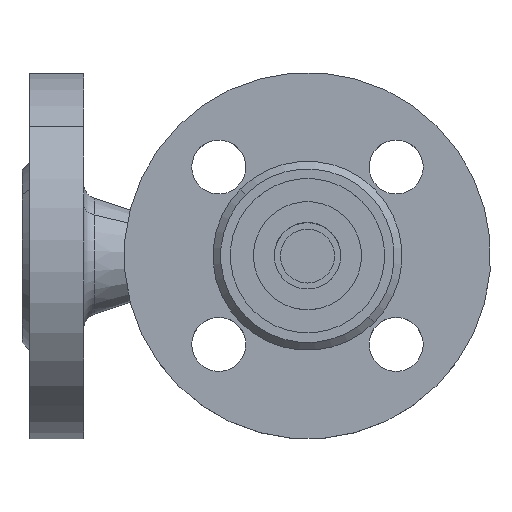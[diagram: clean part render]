
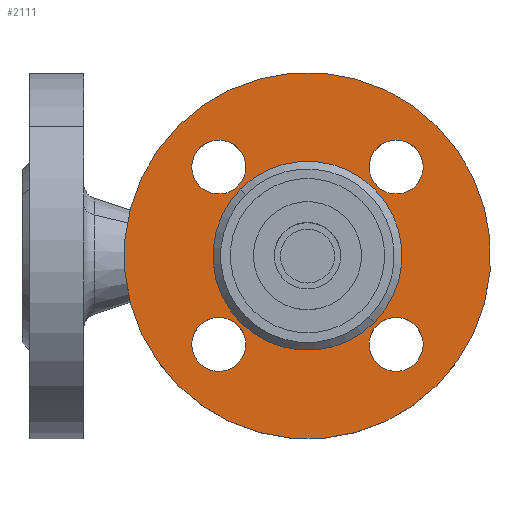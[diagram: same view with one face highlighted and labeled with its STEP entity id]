
A CAD part, top view. The second image highlights one B-rep face of the part: STEP entity #2111.
In plain terms, the highlighted planar face has unit normal (0, 0, 1) as drawn and (0, -1, 0) by its records, which use the part's own axes.
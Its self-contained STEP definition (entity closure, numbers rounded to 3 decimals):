
#790 = FACE_BOUND ( 'NONE', #3164, .T. ) ;
#791 = FACE_BOUND ( 'NONE', #4821, .T. ) ;
#792 = FACE_BOUND ( 'NONE', #8506, .T. ) ;
#793 = FACE_BOUND ( 'NONE', #8382, .T. ) ;
#794 = FACE_OUTER_BOUND ( 'NONE', #2539, .T. ) ;
#795 = FACE_BOUND ( 'NONE', #1677, .T. ) ;
#796 = PLANE ( 'NONE',  #797 ) ;
#797 = AXIS2_PLACEMENT_3D ( 'NONE', #798, #799, #800 ) ;
#798 = CARTESIAN_POINT ( 'NONE',  ( 24.5, 2., 0. ) ) ;
#799 = DIRECTION ( 'NONE',  ( 0., 1., 0. ) ) ;
#800 = DIRECTION ( 'NONE',  ( -1., 0., 0. ) ) ;
#1397 = CIRCLE ( 'NONE', #1398, 7. ) ;
#1398 = AXIS2_PLACEMENT_3D ( 'NONE', #1399, #1400, #1403 ) ;
#1399 = CARTESIAN_POINT ( 'NONE',  ( -32.5, 2., 0. ) ) ;
#1400 = DIRECTION ( 'NONE',  ( 0., 1., 0. ) ) ;
#1403 = DIRECTION ( 'NONE',  ( -1., 0., 0. ) ) ;
#1440 = CARTESIAN_POINT ( 'NONE',  ( -7., 2., 32.5 ) ) ;
#1442 = CARTESIAN_POINT ( 'NONE',  ( 47.5, 2., 0. ) ) ;
#1677 = EDGE_LOOP ( 'NONE', ( #5538, #2561 ) ) ;
#1843 = CARTESIAN_POINT ( 'NONE',  ( 7., 2., 32.5 ) ) ;
#1844 = CARTESIAN_POINT ( 'NONE',  ( -47.5, 2., 0. ) ) ;
#1860 = CIRCLE ( 'NONE', #1861, 7. ) ;
#1861 = AXIS2_PLACEMENT_3D ( 'NONE', #1862, #1863, #1864 ) ;
#1862 = CARTESIAN_POINT ( 'NONE',  ( 32.5, 2., 0. ) ) ;
#1863 = DIRECTION ( 'NONE',  ( 0., 1., 0. ) ) ;
#1864 = DIRECTION ( 'NONE',  ( -1., 0., 0. ) ) ;
#1962 = CIRCLE ( 'NONE', #1963, 7. ) ;
#1963 = AXIS2_PLACEMENT_3D ( 'NONE', #1964, #1965, #1966 ) ;
#1964 = CARTESIAN_POINT ( 'NONE',  ( 0., 2., 32.5 ) ) ;
#1965 = DIRECTION ( 'NONE',  ( 0., 1., 0. ) ) ;
#1966 = DIRECTION ( 'NONE',  ( -1., 0., 0. ) ) ;
#1971 = CIRCLE ( 'NONE', #1974, 7. ) ;
#1974 = AXIS2_PLACEMENT_3D ( 'NONE', #1975, #1976, #1977 ) ;
#1975 = CARTESIAN_POINT ( 'NONE',  ( 0., 2., 32.5 ) ) ;
#1976 = DIRECTION ( 'NONE',  ( 0., 1., 0. ) ) ;
#1977 = DIRECTION ( 'NONE',  ( -1., 0., 0. ) ) ;
#1978 = CIRCLE ( 'NONE', #1979, 47.5 ) ;
#1979 = AXIS2_PLACEMENT_3D ( 'NONE', #1980, #1981, #1982 ) ;
#1980 = CARTESIAN_POINT ( 'NONE',  ( 0., 2., 0. ) ) ;
#1981 = DIRECTION ( 'NONE',  ( 0., 1., 0. ) ) ;
#1982 = DIRECTION ( 'NONE',  ( -1., 0., 0. ) ) ;
#2111 = ADVANCED_FACE ( 'NONE', ( #790, #791, #792, #793, #794, #795 ), #796, .F. ) ;
#2427 = ORIENTED_EDGE ( 'NONE', *, *, #10256, .T. ) ;
#2539 = EDGE_LOOP ( 'NONE', ( #10229, #6490 ) ) ;
#2561 = ORIENTED_EDGE ( 'NONE', *, *, #7125, .T. ) ;
#2711 = ORIENTED_EDGE ( 'NONE', *, *, #4228, .T. ) ;
#2911 = VERTEX_POINT ( 'NONE', #1442 ) ;
#3122 = VERTEX_POINT ( 'NONE', #1844 ) ;
#3142 = EDGE_CURVE ( 'NONE', #12676, #12902, #1860, .T. ) ;
#3164 = EDGE_LOOP ( 'NONE', ( #10235, #2711 ) ) ;
#3175 = CARTESIAN_POINT ( 'NONE',  ( -7., 2., -32.5 ) ) ;
#3330 = EDGE_CURVE ( 'NONE', #10271, #10302, #1962, .T. ) ;
#3348 = EDGE_CURVE ( 'NONE', #3122, #2911, #1978, .T. ) ;
#3422 = ORIENTED_EDGE ( 'NONE', *, *, #3330, .T. ) ;
#3793 = VERTEX_POINT ( 'NONE', #3175 ) ;
#4008 = VERTEX_POINT ( 'NONE', #4305 ) ;
#4228 = EDGE_CURVE ( 'NONE', #4008, #3793, #4516, .T. ) ;
#4305 = CARTESIAN_POINT ( 'NONE',  ( 7., 2., -32.5 ) ) ;
#4389 = CIRCLE ( 'NONE', #4390, 47.5 ) ;
#4390 = AXIS2_PLACEMENT_3D ( 'NONE', #4391, #4392, #4393 ) ;
#4391 = CARTESIAN_POINT ( 'NONE',  ( 0., 2., 0. ) ) ;
#4392 = DIRECTION ( 'NONE',  ( 0., 1., 0. ) ) ;
#4393 = DIRECTION ( 'NONE',  ( -1., 0., 0. ) ) ;
#4516 = CIRCLE ( 'NONE', #4517, 7. ) ;
#4517 = AXIS2_PLACEMENT_3D ( 'NONE', #4518, #4519, #4520 ) ;
#4518 = CARTESIAN_POINT ( 'NONE',  ( 0., 2., -32.5 ) ) ;
#4519 = DIRECTION ( 'NONE',  ( 0., 1., 0. ) ) ;
#4520 = DIRECTION ( 'NONE',  ( -1., 0., 0. ) ) ;
#4821 = EDGE_LOOP ( 'NONE', ( #2427, #10362 ) ) ;
#5538 = ORIENTED_EDGE ( 'NONE', *, *, #8693, .T. ) ;
#5739 = CARTESIAN_POINT ( 'NONE',  ( 24.5, 2., 0. ) ) ;
#6398 = ORIENTED_EDGE ( 'NONE', *, *, #13116, .T. ) ;
#6490 = ORIENTED_EDGE ( 'NONE', *, *, #10414, .F. ) ;
#7125 = EDGE_CURVE ( 'NONE', #10547, #8507, #8061, .T. ) ;
#8061 = CIRCLE ( 'NONE', #8062, 24.5 ) ;
#8062 = AXIS2_PLACEMENT_3D ( 'NONE', #8066, #8067, #8068 ) ;
#8066 = CARTESIAN_POINT ( 'NONE',  ( 0., 2., 0. ) ) ;
#8067 = DIRECTION ( 'NONE',  ( 0., 1., 0. ) ) ;
#8068 = DIRECTION ( 'NONE',  ( -1., 0., 0. ) ) ;
#8118 = VERTEX_POINT ( 'NONE', #8929 ) ;
#8346 = VERTEX_POINT ( 'NONE', #9148 ) ;
#8382 = EDGE_LOOP ( 'NONE', ( #11121, #6398 ) ) ;
#8506 = EDGE_LOOP ( 'NONE', ( #3422, #10443 ) ) ;
#8507 = VERTEX_POINT ( 'NONE', #9402 ) ;
#8564 = EDGE_CURVE ( 'NONE', #8346, #8118, #9443, .T. ) ;
#8693 = EDGE_CURVE ( 'NONE', #8507, #10547, #9525, .T. ) ;
#8929 = CARTESIAN_POINT ( 'NONE',  ( -39.5, 2., 0. ) ) ;
#8930 = CARTESIAN_POINT ( 'NONE',  ( 25.5, 2., 0. ) ) ;
#9148 = CARTESIAN_POINT ( 'NONE',  ( -25.5, 2., 0. ) ) ;
#9149 = CARTESIAN_POINT ( 'NONE',  ( 39.5, 2., 0. ) ) ;
#9402 = CARTESIAN_POINT ( 'NONE',  ( -24.5, 2., 0. ) ) ;
#9419 = EDGE_CURVE ( 'NONE', #3793, #4008, #10651, .T. ) ;
#9443 = CIRCLE ( 'NONE', #9444, 7. ) ;
#9444 = AXIS2_PLACEMENT_3D ( 'NONE', #9445, #9446, #9447 ) ;
#9445 = CARTESIAN_POINT ( 'NONE',  ( -32.5, 2., 0. ) ) ;
#9446 = DIRECTION ( 'NONE',  ( 0., 1., 0. ) ) ;
#9447 = DIRECTION ( 'NONE',  ( -1., 0., 0. ) ) ;
#9448 = CIRCLE ( 'NONE', #9449, 7. ) ;
#9449 = AXIS2_PLACEMENT_3D ( 'NONE', #9450, #9451, #9452 ) ;
#9450 = CARTESIAN_POINT ( 'NONE',  ( 32.5, 2., 0. ) ) ;
#9451 = DIRECTION ( 'NONE',  ( 0., 1., 0. ) ) ;
#9452 = DIRECTION ( 'NONE',  ( -1., 0., 0. ) ) ;
#9525 = CIRCLE ( 'NONE', #9526, 24.5 ) ;
#9526 = AXIS2_PLACEMENT_3D ( 'NONE', #9527, #9528, #9529 ) ;
#9527 = CARTESIAN_POINT ( 'NONE',  ( 0., 2., 0. ) ) ;
#9528 = DIRECTION ( 'NONE',  ( 0., 1., 0. ) ) ;
#9529 = DIRECTION ( 'NONE',  ( -1., 0., 0. ) ) ;
#10229 = ORIENTED_EDGE ( 'NONE', *, *, #3348, .F. ) ;
#10235 = ORIENTED_EDGE ( 'NONE', *, *, #9419, .T. ) ;
#10256 = EDGE_CURVE ( 'NONE', #8118, #8346, #1397, .T. ) ;
#10271 = VERTEX_POINT ( 'NONE', #1440 ) ;
#10302 = VERTEX_POINT ( 'NONE', #1843 ) ;
#10325 = EDGE_CURVE ( 'NONE', #10302, #10271, #1971, .T. ) ;
#10362 = ORIENTED_EDGE ( 'NONE', *, *, #8564, .T. ) ;
#10414 = EDGE_CURVE ( 'NONE', #2911, #3122, #4389, .T. ) ;
#10443 = ORIENTED_EDGE ( 'NONE', *, *, #10325, .T. ) ;
#10547 = VERTEX_POINT ( 'NONE', #5739 ) ;
#10651 = CIRCLE ( 'NONE', #10652, 7. ) ;
#10652 = AXIS2_PLACEMENT_3D ( 'NONE', #10653, #10654, #10655 ) ;
#10653 = CARTESIAN_POINT ( 'NONE',  ( 0., 2., -32.5 ) ) ;
#10654 = DIRECTION ( 'NONE',  ( 0., 1., 0. ) ) ;
#10655 = DIRECTION ( 'NONE',  ( -1., 0., 0. ) ) ;
#11121 = ORIENTED_EDGE ( 'NONE', *, *, #3142, .T. ) ;
#12676 = VERTEX_POINT ( 'NONE', #8930 ) ;
#12902 = VERTEX_POINT ( 'NONE', #9149 ) ;
#13116 = EDGE_CURVE ( 'NONE', #12902, #12676, #9448, .T. ) ;
